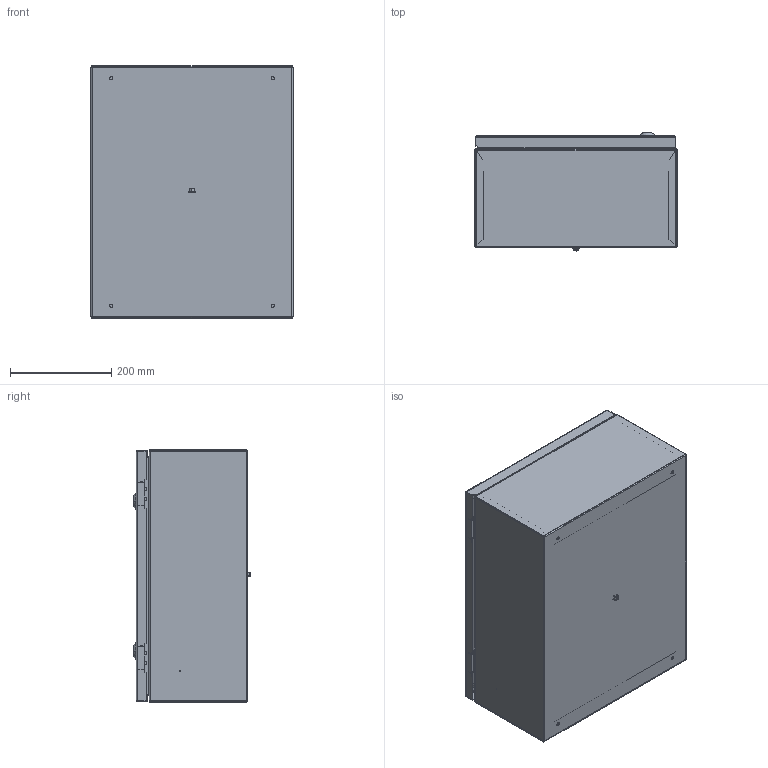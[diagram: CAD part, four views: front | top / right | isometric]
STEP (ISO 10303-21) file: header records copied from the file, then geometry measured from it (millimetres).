
FILE_DESCRIPTION (( 'STEP AP214' ), '1' );
FILE_NAME ('ÙÌÏ-02-500õ400õ220-IP54-ÓÕË2-ÊÝÀÇ.STEP', '2023-01-24T12:22:31', ( '' ), ( '' ), 'SwSTEP 2.0', 'SolidWorks 2018', '' );
FILE_SCHEMA (( 'AUTOMOTIVE_DESIGN' ));
Length unit declared in the file: millimetre
Products named in the file (1): ÙÌÏ-02-500õ400õ220-IP54-ÓÕË2-ÊÝÀÇ
Bounding box: 400 x 233.36 x 500 mm (x, y, z)
Surface area: 1646275.6 mm2 (no closed solid volume)
Topology: 0 solids, 30 shells, 219 faces, 783 edges, 575 vertices
Faces by surface type: plane 98, cylinder 78, bspline 17, torus 14, cone 12
Entity records: 13073 total; most frequent: CARTESIAN_POINT 4136, DIRECTION 1355, ORIENTED_EDGE 1112, EDGE_CURVE 783, VERTEX_POINT 575, AXIS2_PLACEMENT_3D 457, LINE 441, VECTOR 441
